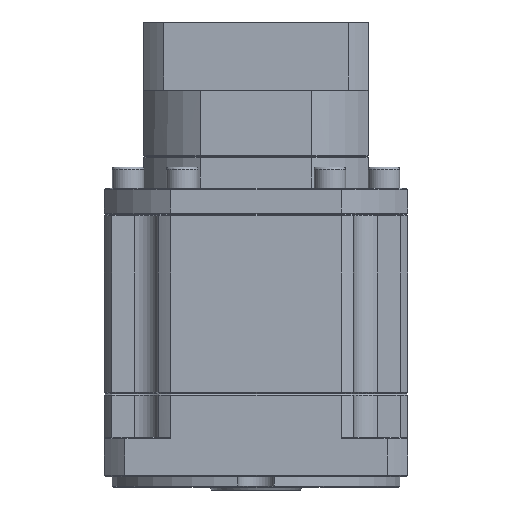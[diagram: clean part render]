
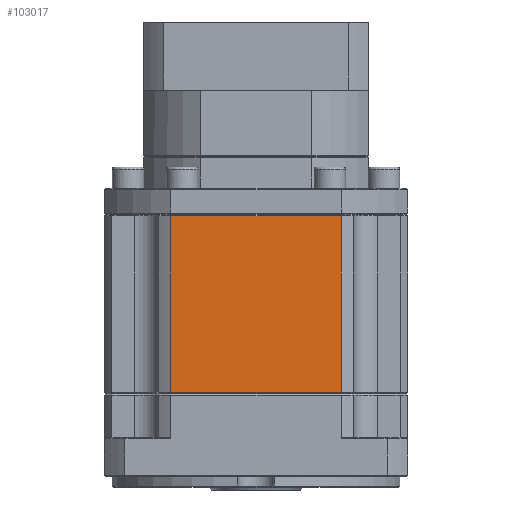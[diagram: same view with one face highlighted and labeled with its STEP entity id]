
A CAD part, front view. The second image highlights one B-rep face of the part: STEP entity #103017.
In plain terms, the highlighted planar face has unit normal (0, -1, 0).
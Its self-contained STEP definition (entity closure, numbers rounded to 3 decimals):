
#1437 = VECTOR ( 'NONE', #67770, 1000. ) ;
#3160 = CARTESIAN_POINT ( 'NONE',  ( -19.767, -19.799, -134.095 ) ) ;
#5215 = PLANE ( 'NONE',  #25547 ) ;
#9718 = VECTOR ( 'NONE', #30110, 1000. ) ;
#11670 = LINE ( 'NONE', #72720, #55923 ) ;
#12360 = CARTESIAN_POINT ( 'NONE',  ( -44.867, -19.799, -66.595 ) ) ;
#13346 = VECTOR ( 'NONE', #73954, 1000. ) ;
#14848 = CARTESIAN_POINT ( 'NONE',  ( -109.667, -19.799, -66.595 ) ) ;
#25243 = EDGE_CURVE ( 'NONE', #36762, #63941, #11670, .T. ) ;
#25547 = AXIS2_PLACEMENT_3D ( 'NONE', #49693, #111523, #58595 ) ;
#30110 = DIRECTION ( 'NONE',  ( 0., 0., -1. ) ) ;
#33229 = LINE ( 'NONE', #12360, #9718 ) ;
#33743 = ORIENTED_EDGE ( 'NONE', *, *, #111283, .F. ) ;
#36762 = VERTEX_POINT ( 'NONE', #66091 ) ;
#43930 = VERTEX_POINT ( 'NONE', #58597 ) ;
#46221 = ORIENTED_EDGE ( 'NONE', *, *, #85378, .F. ) ;
#49693 = CARTESIAN_POINT ( 'NONE',  ( -19.767, -19.799, -66.595 ) ) ;
#54069 = FACE_OUTER_BOUND ( 'NONE', #68600, .T. ) ;
#55923 = VECTOR ( 'NONE', #81596, 1000. ) ;
#58595 = DIRECTION ( 'NONE',  ( -1., 0., 0. ) ) ;
#58597 = CARTESIAN_POINT ( 'NONE',  ( -44.867, -19.799, -134.095 ) ) ;
#60397 = LINE ( 'NONE', #3160, #13346 ) ;
#63941 = VERTEX_POINT ( 'NONE', #86225 ) ;
#64021 = CARTESIAN_POINT ( 'NONE',  ( -109.667, -19.799, -134.095 ) ) ;
#66091 = CARTESIAN_POINT ( 'NONE',  ( -109.667, -19.799, -67.095 ) ) ;
#66906 = ORIENTED_EDGE ( 'NONE', *, *, #25243, .F. ) ;
#67770 = DIRECTION ( 'NONE',  ( 0., 0., 1. ) ) ;
#68600 = EDGE_LOOP ( 'NONE', ( #86067, #33743, #66906, #46221 ) ) ;
#71233 = EDGE_CURVE ( 'NONE', #43930, #74138, #60397, .T. ) ;
#72720 = CARTESIAN_POINT ( 'NONE',  ( -77.267, -19.799, -67.095 ) ) ;
#73954 = DIRECTION ( 'NONE',  ( -1., 0., 0. ) ) ;
#74138 = VERTEX_POINT ( 'NONE', #64021 ) ;
#81596 = DIRECTION ( 'NONE',  ( 1., 0., 0. ) ) ;
#85378 = EDGE_CURVE ( 'NONE', #74138, #36762, #92786, .T. ) ;
#86067 = ORIENTED_EDGE ( 'NONE', *, *, #71233, .F. ) ;
#86225 = CARTESIAN_POINT ( 'NONE',  ( -44.867, -19.799, -67.095 ) ) ;
#92786 = LINE ( 'NONE', #14848, #1437 ) ;
#103017 = ADVANCED_FACE ( 'NONE', ( #54069 ), #5215, .F. ) ;
#111283 = EDGE_CURVE ( 'NONE', #63941, #43930, #33229, .T. ) ;
#111523 = DIRECTION ( 'NONE',  ( 0., 1., 0. ) ) ;
